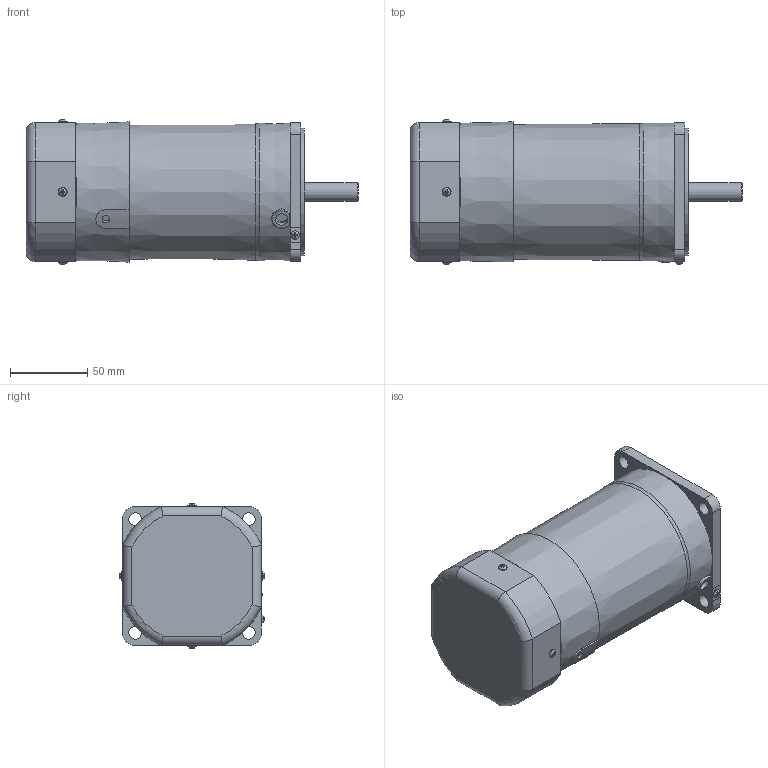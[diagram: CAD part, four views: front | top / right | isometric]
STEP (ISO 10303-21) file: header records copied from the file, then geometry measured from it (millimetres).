
FILE_DESCRIPTION(/* description */ (''),/* implementation_level */ '2;1');
FILE_NAME(/* name */ 'E:\도면작업\2016\0704) 미주향 SG 도면\3D MOTOR\ELECTROMAGNETIC BRAKE\SG9R(I)90S_-E.stp',/* time_stamp */ '2017-03-21T15:22:00+09:00',/* author */ ('jy-jung'),/* organization */ (''),/* preprocessor_version */ 'ST-DEVELOPER v15.6',/* originating_system */ 'Autodesk Inventor 2015',/* authorisation */ '');
FILE_SCHEMA (('AUTOMOTIVE_DESIGN { 1 0 10303 214 3 1 1 }'));
Length unit declared in the file: millimetre
Products named in the file (1): 부품23
Bounding box: 215.3 x 93.89 x 93.89 mm (x, y, z)
Volume: 1141367.6 mm3; surface area: 74707.4 mm2
Topology: 1 solids, 6 shells, 229 faces, 586 edges, 386 vertices
Faces by surface type: plane 146, cylinder 55, torus 14, cone 8, bspline 5, sphere 1
Full cylindrical faces by diameter (mm): 3 x4, 3.5 x4, 5 x1, 5.6 x5, 8 x1, 8.5 x4, 10 x1, 12 x1, 40 x1, 83 x1, 86 x1
Entity records: 7468 total; most frequent: CARTESIAN_POINT 1907, ORIENTED_EDGE 1066, DIRECTION 1034, EDGE_CURVE 533, VERTEX_POINT 375, AXIS2_PLACEMENT_3D 367, EDGE_LOOP 306, LINE 300
